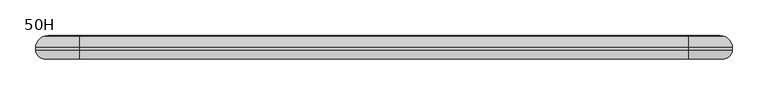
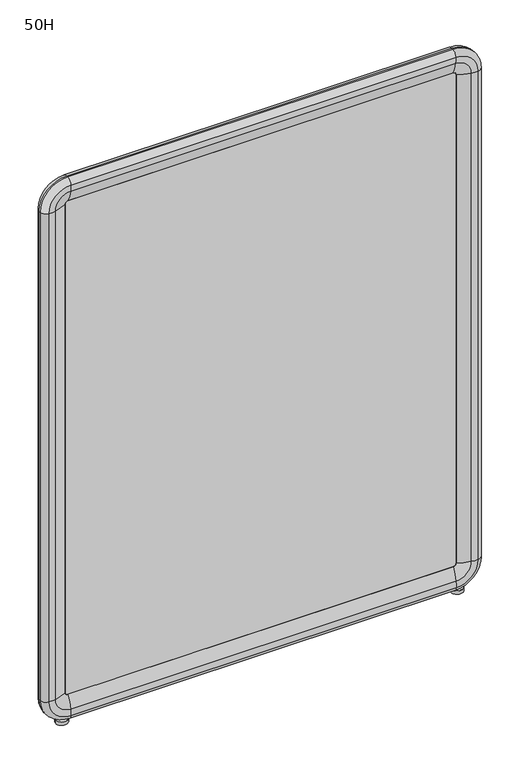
"""IFC4 building model written with IfcOpenShell, lengths in millimetres: furniture geometry, Coalesse_AM_Seating_LoungeChair_Lagunitas_BoothScreen : 50H."""

import ifcopenshell
import ifcopenshell.guid

model = None  # the IFC model being written
_history = None  # IfcOwnerHistory: only IFC2X3 demands one
_inside = {}  # id of a spatial element -> (the spatial element, [elements in it])
_under = {}  # id of a project, library or spatial element -> (it, [spatial elements below it])
_declared = {}  # id of a project -> (the project, [libraries it declares])
_typed = {}  # id of a type object -> (the type object, [elements of that type])
_made_of = {}  # id of a material, layer set ... -> (it, [elements and type objects made of it])


def new_model(schema):
    """Start an empty IFC model of exactly this schema.

    Asked for "IFC4X3", IfcOpenShell would pick the latest addendum, in which some entities
    have other attributes; the version numbers below select the first issue.
    IFC2X3 requires an IfcOwnerHistory on every rooted entity: one is made here for all.
    """
    global model, _history
    if schema == "IFC4X3":
        model = ifcopenshell.file(schema_version=(4, 3, 0, 0))
    else:
        model = ifcopenshell.file(schema=schema)
    _inside.clear()
    _under.clear()
    _declared.clear()
    _typed.clear()
    _made_of.clear()
    _history = None
    if model.schema == "IFC2X3":
        org = make("IfcOrganization", Name="unknown")
        user = make(
            "IfcPersonAndOrganization",
            ThePerson=make("IfcPerson", FamilyName="unknown"),
            TheOrganization=org,
        )
        app = make(
            "IfcApplication",
            ApplicationDeveloper=org,
            Version="unknown",
            ApplicationFullName="unknown",
            ApplicationIdentifier="unknown",
        )
        _history = make(
            "IfcOwnerHistory",
            OwningUser=user,
            OwningApplication=app,
            ChangeAction="ADDED",
            CreationDate=0,
        )
    return model


def make(cls, **values):
    """One entity of the class cls with the attributes given. An attribute that is None is left unset."""
    return model.create_entity(
        cls, **{name: value for name, value in values.items() if value is not None}
    )


def rooted(cls, **values):
    """An entity with a GlobalId (a new one), such as an element, a storey or a relation."""
    return make(cls, GlobalId=ifcopenshell.guid.new(), OwnerHistory=_history, **values)


def si_unit(unit_type, name, prefix=None):
    """IfcSIUnit, for example si_unit("LENGTHUNIT", "METRE", prefix="MILLI")."""
    return make("IfcSIUnit", UnitType=unit_type, Prefix=prefix, Name=name)


def assignment(units):
    """IfcUnitAssignment: the units of a project."""
    return None if units is None else make("IfcUnitAssignment", Units=units)


def point(xyz):
    """IfcCartesianPoint."""
    return None if xyz is None else make("IfcCartesianPoint", Coordinates=xyz)


def direction(xyz):
    """IfcDirection."""
    return None if xyz is None else make("IfcDirection", DirectionRatios=xyz)


def frame(location, z_axis=None, x_axis=None):
    """IfcAxis2Placement3D, a coordinate frame: its origin and axes. An axis left out is left unset."""
    return make(
        "IfcAxis2Placement3D",
        Location=point(location),
        Axis=direction(z_axis),
        RefDirection=direction(x_axis),
    )


def frame_2d(location, x_axis=None):
    """IfcAxis2Placement2D, a coordinate frame in the plane: its origin and x axis."""
    return make(
        "IfcAxis2Placement2D", Location=point(location), RefDirection=direction(x_axis)
    )


def origin():
    """The frame at (0, 0, 0) with its axes left unset."""
    return frame((0.0, 0.0, 0.0))


def origin_with_axes():
    """The frame at (0, 0, 0) with the z axis (0, 0, 1) and the x axis (1, 0, 0) written out."""
    return frame((0.0, 0.0, 0.0), z_axis=(0.0, 0.0, 1.0), x_axis=(1.0, 0.0, 0.0))


def place(relative_to, where):
    """IfcLocalPlacement: puts the frame where relative to a parent placement (None: the world)."""
    return make(
        "IfcLocalPlacement", PlacementRelTo=relative_to, RelativePlacement=where
    )


def context(
    kind, dimensions, precision=None, world=None, true_north=None, identifier=None
):
    """IfcGeometricRepresentationContext, for example the 3D "Model" context."""
    return make(
        "IfcGeometricRepresentationContext",
        ContextIdentifier=identifier,
        ContextType=kind,
        CoordinateSpaceDimension=dimensions,
        Precision=precision,
        WorldCoordinateSystem=world,
        TrueNorth=true_north,
    )


def project(units=None, contexts=None):
    """IfcProject with its units and contexts."""
    return rooted(
        "IfcProject",
        Name="project",
        RepresentationContexts=contexts,
        UnitsInContext=assignment(units),
    )


def spatial(cls, under=None, at=None, **own):
    """A site, building, storey or space (cls), placed at a placement, below another one or the project."""
    s = rooted(cls, ObjectPlacement=at, **own)
    if under is not None:
        _under.setdefault(under.id(), (under, []))[1].append(s)
    return s


def polyline(points):
    """IfcPolyline through the points."""
    return make("IfcPolyline", Points=[point(p) for p in points])


def circle_curve(where, radius):
    """IfcCircle in the frame where."""
    return make("IfcCircle", Position=where, Radius=radius)


def ellipse_curve(where, semi_axis1, semi_axis2):
    """IfcEllipse in the frame where."""
    return make(
        "IfcEllipse", Position=where, SemiAxis1=semi_axis1, SemiAxis2=semi_axis2
    )


def trimmed(basis, trim1, trim2, sense, master):
    """IfcTrimmedCurve: the piece of a basis curve between two trims."""
    return make(
        "IfcTrimmedCurve",
        BasisCurve=basis,
        Trim1=trim1,
        Trim2=trim2,
        SenseAgreement=sense,
        MasterRepresentation=master,
    )


def segment(curve, same_sense, transition):
    """IfcCompositeCurveSegment."""
    return make(
        "IfcCompositeCurveSegment",
        Transition=transition,
        SameSense=same_sense,
        ParentCurve=curve,
    )


def composite_curve(segments, self_intersect=None):
    """IfcCompositeCurve: segments joined end to end."""
    return make("IfcCompositeCurve", Segments=segments, SelfIntersect=self_intersect)


def outline(outer, holes=None, kind="AREA"):
    """IfcArbitraryClosedProfileDef: a profile drawn as a closed curve; with holes, ...WithVoids."""
    if holes is None:
        return make("IfcArbitraryClosedProfileDef", ProfileType=kind, OuterCurve=outer)
    return make(
        "IfcArbitraryProfileDefWithVoids",
        ProfileType=kind,
        OuterCurve=outer,
        InnerCurves=holes,
    )


def extrude(swept, where, along, depth):
    """IfcExtrudedAreaSolid: the profile swept, set in the frame where, extruded along a direction by depth."""
    return make(
        "IfcExtrudedAreaSolid",
        SweptArea=swept,
        Position=where,
        ExtrudedDirection=direction(along),
        Depth=depth,
    )


def shape(context_of_items, identifier, shape_type, items):
    """IfcShapeRepresentation: the items that make up one representation, for example the "Body"."""
    return make(
        "IfcShapeRepresentation",
        ContextOfItems=context_of_items,
        RepresentationIdentifier=identifier,
        RepresentationType=shape_type,
        Items=items,
    )


def source(mapping_origin, context_of_items, identifier, shape_type, items):
    """IfcRepresentationMap: a shape defined once, which mapped items show again and again."""
    return make(
        "IfcRepresentationMap",
        MappingOrigin=mapping_origin,
        MappedRepresentation=shape(context_of_items, identifier, shape_type, items),
    )


def transform(
    local_origin,
    x_axis=None,
    y_axis=None,
    z_axis=None,
    scale=None,
    scale2=None,
    scale3=None,
    uniform=True,
):
    """IfcCartesianTransformationOperator3D, or its non-uniform kind. x_axis, y_axis, z_axis: its Axis1, 2, 3."""
    if uniform:
        return make(
            "IfcCartesianTransformationOperator3D",
            Axis1=direction(x_axis),
            Axis2=direction(y_axis),
            LocalOrigin=point(local_origin),
            Scale=scale,
            Axis3=direction(z_axis),
        )
    return make(
        "IfcCartesianTransformationOperator3DnonUniform",
        Axis1=direction(x_axis),
        Axis2=direction(y_axis),
        LocalOrigin=point(local_origin),
        Scale=scale,
        Axis3=direction(z_axis),
        Scale2=scale2,
        Scale3=scale3,
    )


def mapped(mapping_source, mapping_target):
    """IfcMappedItem: shows the shape of a source again, moved by a transform."""
    return make(
        "IfcMappedItem", MappingSource=mapping_source, MappingTarget=mapping_target
    )


def made_of(thing, what):
    """Note that an element or type object is made of a material, layer set ...; save() writes the relation."""
    if what is not None:
        _made_of.setdefault(what.id(), (what, []))[1].append(thing)
    return thing


def element(
    cls,
    number,
    at=None,
    inside=None,
    cuts=None,
    type_object=None,
    material=None,
    context=None,
    identifier="Body",
    shape_type=None,
    held_by="IfcProductDefinitionShape",
    body=None,
    shapes=None,
    **own,
):
    """One element of the class cls, such as IfcWall. Its Tag is "e" and its number.

    at: its placement. inside: the storey or other place that contains it. cuts: it is an
    opening in that element (IfcRelVoidsElement). A single representation is given by context,
    identifier, shape_type and body (its items); several are given by shapes. held_by: the class
    of the entity that holds the representations. save() writes the other relations.
    """
    e = rooted(cls, Tag="e%d" % number, ObjectPlacement=at, **own)
    if body is not None:
        shapes = [shape(context, identifier, shape_type, body)]
    if shapes is not None:
        e.Representation = make(held_by, Representations=shapes)
    if inside is not None:
        _inside.setdefault(inside.id(), (inside, []))[1].append(e)
    if cuts is not None:
        rooted(
            "IfcRelVoidsElement", RelatingBuildingElement=cuts, RelatedOpeningElement=e
        )
    if type_object is not None:
        _typed.setdefault(type_object.id(), (type_object, []))[1].append(e)
    return made_of(e, material)


def aggregate(whole, parts):
    """IfcRelAggregates: a whole, such as a stair, and the parts it consists of."""
    return rooted("IfcRelAggregates", RelatingObject=whole, RelatedObjects=parts)


def save(model, path):
    """Write the relations noted so far, then the file.

    IfcRelAggregates (storeys below a building ...), IfcRelContainedInSpatialStructure (elements
    in a storey), IfcRelDefinesByType, IfcRelAssociatesMaterial and IfcRelDeclares: one each for
    every whole, place, type object, material and project.
    """
    for whole, parts in _under.values():
        aggregate(whole, parts)
    for where, things in _inside.values():
        rooted(
            "IfcRelContainedInSpatialStructure",
            RelatedElements=things,
            RelatingStructure=where,
        )
    for kind, things in _typed.values():
        rooted("IfcRelDefinesByType", RelatedObjects=things, RelatingType=kind)
    for what, things in _made_of.values():
        rooted("IfcRelAssociatesMaterial", RelatedObjects=things, RelatingMaterial=what)
    for by, libraries in _declared.values():
        rooted("IfcRelDeclares", RelatingContext=by, RelatedDefinitions=libraries)
    model.write(path)


def plane_surface(at):
    """IfcPlane: the flat surface through the origin of the frame at, square to its z axis."""
    return make("IfcPlane", Position=at)


def cylinder_surface(at, radius):
    """IfcCylindricalSurface: all points at the distance radius from the z axis of the frame at."""
    return make("IfcCylindricalSurface", Position=at, Radius=radius)


def revolved_surface(curve, axis_point, axis_direction):
    """IfcSurfaceOfRevolution: the curve turned about the line through axis_point along axis_direction."""
    return make(
        "IfcSurfaceOfRevolution",
        SweptCurve=make("IfcArbitraryOpenProfileDef", ProfileType="CURVE", Curve=curve),
        AxisPosition=make("IfcAxis1Placement", Location=point(axis_point), Axis=direction(axis_direction)),
    )


def advanced_brep(points, edges, surfaces, faces):
    """IfcAdvancedBrep: a solid bounded by faces that lie on surfaces and meet in shared edges.

    An edge is (start, end): straight between two places in points (the first is 0);
    or (start, end, curve); or (start, end, curve, False) where it runs against its curve.
    A face is (place in surfaces, loops), or (place, loops, False) where it looks against
    its surface's normal. A loop lists edges by number (the first is 1), with a minus sign
    where the edge is run from its end to its start. The first loop is the outer one.
    """
    corners = [point(p) for p in points]
    vertices = [make("IfcVertexPoint", VertexGeometry=c) for c in corners]
    made = []
    for start, end, *more in edges:
        made.append(
            make(
                "IfcEdgeCurve",
                EdgeStart=vertices[start],
                EdgeEnd=vertices[end],
                EdgeGeometry=more[0] if more else make("IfcPolyline", Points=[corners[start], corners[end]]),
                SameSense=more[1] if len(more) > 1 else True,
            )
        )
    hull = []
    for where, loops, *sense in faces:
        bounds = []
        for j, loop in enumerate(loops):
            ring = [make("IfcOrientedEdge", EdgeElement=made[abs(k) - 1], Orientation=k > 0) for k in loop]
            bounds.append(
                make(
                    "IfcFaceOuterBound" if j == 0 else "IfcFaceBound",
                    Bound=make("IfcEdgeLoop", EdgeList=ring),
                    Orientation=True,
                )
            )
        hull.append(make("IfcAdvancedFace", Bounds=bounds, FaceSurface=surfaces[where], SameSense=sense[0] if sense else True))
    return make("IfcAdvancedBrep", Outer=make("IfcClosedShell", CfsFaces=hull))


def furniture_50h_e364f507(model_context):
    return source(origin(), model_context, "Body", "SolidModel", [
        extrude(outline(composite_curve([segment(trimmed(circle_curve(frame_2d((453.6214725, 440.7217708)), 13.208), [point((466.8294725, 440.7217708))], [point((440.4134725, 440.7217708))], False, "CARTESIAN"), True, "CONTINUOUS"), segment(trimmed(circle_curve(frame_2d((453.6214725, 440.7217708)), 13.208), [point((440.4134725, 440.7217708))], [point((466.8294725, 440.7217708))], False, "CARTESIAN"), True, "CONTINUOUS")], self_intersect=False)), origin_with_axes(), (0.0, 0.0, 1.0), 7.9249983),
        extrude(outline(composite_curve([segment(trimmed(circle_curve(frame_2d((453.4911595, 440.6536463)), 3.8556407), [point((457.3468003, 440.6536463))], [point((449.6355188, 440.6536463))], False, "CARTESIAN"), True, "CONTINUOUS"), segment(trimmed(circle_curve(frame_2d((453.4911595, 440.6536463)), 3.8556407), [point((449.6355188, 440.6536463))], [point((457.3468003, 440.6536463))], False, "CARTESIAN"), True, "CONTINUOUS")], self_intersect=False)), frame((0.0, 0.0, 7.9249983), z_axis=(0.0, 0.0, 1.0), x_axis=(1.0, 0.0, 0.0)), (0.0, 0.0, 1.0), 41.9053919),
        extrude(outline(composite_curve([segment(trimmed(circle_curve(frame_2d((-421.3244846, 440.7217708)), 13.208), [point((-434.5324846, 440.7217708))], [point((-408.1164846, 440.7217708))], False, "CARTESIAN"), True, "CONTINUOUS"), segment(trimmed(circle_curve(frame_2d((-421.3244846, 440.7217708)), 13.208), [point((-408.1164846, 440.7217708))], [point((-434.5324846, 440.7217708))], False, "CARTESIAN"), True, "CONTINUOUS")], self_intersect=False)), origin_with_axes(), (0.0, 0.0, 1.0), 7.9249983),
        extrude(outline(composite_curve([segment(trimmed(circle_curve(frame_2d((-421.1941716, 440.6536463)), 3.8556407), [point((-425.0498123, 440.6536463))], [point((-417.3385308, 440.6536463))], False, "CARTESIAN"), True, "CONTINUOUS"), segment(trimmed(circle_curve(frame_2d((-421.1941716, 440.6536463)), 3.8556407), [point((-417.3385308, 440.6536463))], [point((-425.0498123, 440.6536463))], False, "CARTESIAN"), True, "CONTINUOUS")], self_intersect=False)), frame((0.0, 0.0, 7.9249983), z_axis=(0.0, 0.0, 1.0), x_axis=(1.0, 0.0, 0.0)), (0.0, 0.0, 1.0), 41.9053919),
        advanced_brep(
        [(-416.4339043, 446.0584965, 1210.1248052), (-410.0839043, 446.0584965, 1216.4748052), (-410.0839043, 435.8580653, 1216.4748052), (-416.4339043, 435.8580653, 1210.1248052), (-470.8215471, 437.2998542, 1210.1248052), (-410.0839043, 437.2998542, 1270.862448), (-410.0839043, 440.334406, 1270.862448), (-470.8215471, 440.334406, 1210.1248052), (-416.4339043, 435.8580653, 68.6500677), (-416.4339043, 446.0584965, 68.6500677), (-470.8215471, 440.334406, 68.6500677), (-470.8215471, 437.2998542, 68.6500677), (-410.0839043, 446.0584965, 62.3000677), (-410.0839043, 435.8580653, 62.3000677), (-410.0839043, 437.2998542, 7.9124249), (-410.0839043, 440.334406, 7.9124249), (442.4979449, 435.8580653, 62.3000677), (442.4979449, 446.0584965, 62.3000677), (442.4979449, 440.334406, 7.9124249), (442.4979449, 437.2998542, 7.9124249), (448.8479449, 446.0584965, 68.6500677), (448.8479449, 435.8580653, 68.6500677), (503.2355877, 437.2998542, 68.6500677), (503.2355877, 440.334406, 68.6500677), (448.8479449, 435.8580653, 1210.1248052), (448.8479449, 446.0584965, 1210.1248052), (503.2355877, 440.334406, 1210.1248052), (503.2355877, 437.2998542, 1210.1248052), (442.4979449, 446.0584965, 1216.4748052), (442.4979449, 435.8580653, 1216.4748052), (442.4979449, 437.2998542, 1270.862448), (442.4979449, 440.334406, 1270.862448), (-448.8657727, 457.2024852, 1210.1248052), (-410.0839043, 457.2024852, 1248.9066736), (-457.6752087, 456.7577105, 1210.1248052), (-410.0839043, 456.7577105, 1257.7161096), (-459.4147106, 424.6658632, 1210.1248052), (-410.0839043, 424.6658632, 1259.4556116), (-444.6084932, 425.6033536, 1210.1248052), (-410.0839043, 425.6033536, 1244.6493942), (-448.8657727, 457.2024852, 68.6500677), (-457.6752087, 456.7577105, 68.6500677), (-459.4147106, 424.6658632, 68.6500677), (-444.6084932, 425.6033536, 68.6500677), (-410.0839043, 457.2024852, 29.8681993), (-410.0839043, 456.7577105, 21.0587633), (-410.0839043, 424.6658632, 19.3192613), (-410.0839043, 425.6033536, 34.1254788), (442.4979449, 457.2024852, 29.8681993), (442.4979449, 456.7577105, 21.0587633), (442.4979449, 424.6658632, 19.3192613), (442.4979449, 425.6033536, 34.1254788), (481.2798133, 457.2024852, 68.6500677), (490.0892493, 456.7577105, 68.6500677), (491.8287513, 424.6658632, 68.6500677), (477.0225339, 425.6033536, 68.6500677), (481.2798133, 457.2024852, 1210.1248052), (490.0892493, 456.7577105, 1210.1248052), (491.8287513, 424.6658632, 1210.1248052), (477.0225339, 425.6033536, 1210.1248052), (442.4979449, 457.2024852, 1248.9066736), (442.4979449, 456.7577105, 1257.7161096), (442.4979449, 424.6658632, 1259.4556116), (442.4979449, 425.6033536, 1244.6493942)],
        [
            (0, 1, circle_curve(frame((-410.0839043, 446.0584965, 1210.1248052), z_axis=(0.0, 1.0, 0.0), x_axis=(0.0, 0.0, 1.0)), 6.35)),
            (1, 2),
            (2, 3, circle_curve(frame((-410.0839043, 435.8580653, 1210.1248052), z_axis=(0.0, -1.0, 0.0), x_axis=(0.0, 0.0, 1.0)), 6.35)),
            (3, 0),
            (4, 5, circle_curve(frame((-410.0839043, 437.2998542, 1210.1248052), z_axis=(0.0, 1.0, 0.0), x_axis=(0.0, 0.0, 1.0)), 60.7376428)),
            (5, 6),
            (6, 7, circle_curve(frame((-410.0839043, 440.334406, 1210.1248052), z_axis=(0.0, -1.0, 0.0), x_axis=(0.0, 0.0, 1.0)), 60.7376428)),
            (7, 4),
            (3, 8),
            (8, 9),
            (9, 0),
            (7, 10),
            (10, 11),
            (11, 4),
            (12, 9, circle_curve(frame((-410.0839043, 446.0584965, 68.6500677), z_axis=(0.0, 1.0, 0.0), x_axis=(-1.0, 0.0, 0.0)), 6.35)),
            (8, 13, circle_curve(frame((-410.0839043, 435.8580653, 68.6500677), z_axis=(0.0, -1.0, 0.0), x_axis=(-1.0, 0.0, 0.0)), 6.35)),
            (13, 12),
            (14, 11, circle_curve(frame((-410.0839043, 437.2998542, 68.6500677), z_axis=(0.0, 1.0, 0.0), x_axis=(-1.0, 0.0, 0.0)), 60.7376428)),
            (10, 15, circle_curve(frame((-410.0839043, 440.334406, 68.6500677), z_axis=(0.0, -1.0, 0.0), x_axis=(-1.0, 0.0, 0.0)), 60.7376428)),
            (15, 14),
            (13, 16),
            (16, 17),
            (17, 12),
            (15, 18),
            (18, 19),
            (19, 14),
            (20, 17, circle_curve(frame((442.4979449, 446.0584965, 68.6500677), z_axis=(0.0, 1.0, 0.0), x_axis=(0.0, 0.0, -1.0)), 6.35)),
            (16, 21, circle_curve(frame((442.4979449, 435.8580653, 68.6500677), z_axis=(0.0, -1.0, 0.0), x_axis=(0.0, 0.0, -1.0)), 6.35)),
            (21, 20),
            (22, 19, circle_curve(frame((442.4979449, 437.2998542, 68.6500677), z_axis=(0.0, 1.0, 0.0), x_axis=(0.0, 0.0, -1.0)), 60.7376428)),
            (18, 23, circle_curve(frame((442.4979449, 440.334406, 68.6500677), z_axis=(0.0, -1.0, 0.0), x_axis=(0.0, 0.0, -1.0)), 60.7376428)),
            (23, 22),
            (21, 24),
            (24, 25),
            (25, 20),
            (23, 26),
            (26, 27),
            (27, 22),
            (28, 25, circle_curve(frame((442.4979449, 446.0584965, 1210.1248052), z_axis=(0.0, 1.0, 0.0), x_axis=(1.0, 0.0, 0.0)), 6.35)),
            (24, 29, circle_curve(frame((442.4979449, 435.8580653, 1210.1248052), z_axis=(0.0, -1.0, 0.0), x_axis=(1.0, 0.0, 0.0)), 6.35)),
            (29, 28),
            (30, 27, circle_curve(frame((442.4979449, 437.2998542, 1210.1248052), z_axis=(0.0, 1.0, 0.0), x_axis=(1.0, 0.0, 0.0)), 60.7376428)),
            (26, 31, circle_curve(frame((442.4979449, 440.334406, 1210.1248052), z_axis=(0.0, -1.0, 0.0), x_axis=(1.0, 0.0, 0.0)), 60.7376428)),
            (31, 30),
            (29, 2),
            (1, 28),
            (31, 6),
            (5, 30),
            (32, 33, circle_curve(frame((-410.0839043, 457.2024852, 1210.1248052), z_axis=(0.0, 1.0, 0.0), x_axis=(0.0, 0.0, 1.0)), 38.7818683)),
            (33, 1, circle_curve(frame((-410.0839043, 375.9663196, 1258.6898789), z_axis=(-1.0, 0.0, 0.0), x_axis=(0.0, 0.0, -1.0)), 81.8231367)),
            (0, 32, circle_curve(frame((-458.648978, 375.9663196, 1210.1248052), z_axis=(0.0, 0.0, 1.0), x_axis=(1.0, 0.0, 0.0)), 81.8231367)),
            (34, 35, circle_curve(frame((-410.0839043, 456.7577105, 1210.1248052), z_axis=(0.0, 1.0, 0.0), x_axis=(0.0, 0.0, 1.0)), 47.5913044)),
            (35, 33, circle_curve(frame((-410.0839043, 431.3657926, 1252.0181655), z_axis=(-1.0, 0.0, 0.0), x_axis=(0.0, 0.0, -1.0)), 26.0233753)),
            (32, 34, circle_curve(frame((-451.9772645, 431.3657926, 1210.1248052), z_axis=(0.0, 0.0, 1.0), x_axis=(1.0, 0.0, 0.0)), 26.0233753)),
            (6, 35, circle_curve(frame((-410.0839043, 440.334406, 1254.0307215), z_axis=(-1.0, 0.0, 0.0), x_axis=(0.0, 0.0, -1.0)), 16.8317265)),
            (34, 7, circle_curve(frame((-453.9898206, 440.334406, 1210.1248052), z_axis=(0.0, 0.0, 1.0), x_axis=(1.0, 0.0, 0.0)), 16.8317265)),
            (36, 37, circle_curve(frame((-410.0839043, 424.6658632, 1210.1248052), z_axis=(0.0, 1.0, 0.0), x_axis=(0.0, 0.0, 1.0)), 49.3308063)),
            (37, 5, circle_curve(frame((-410.0839043, 437.2998542, 1258.162448), z_axis=(-1.0, 0.0, 0.0), x_axis=(0.0, 0.0, -1.0)), 12.7)),
            (4, 36, circle_curve(frame((-458.1215471, 437.2998542, 1210.1248052), z_axis=(0.0, 0.0, 1.0), x_axis=(1.0, 0.0, 0.0)), 12.7)),
            (38, 39, circle_curve(frame((-410.0839043, 425.6033536, 1210.1248052), z_axis=(0.0, 1.0, 0.0), x_axis=(0.0, 0.0, 1.0)), 34.5245889)),
            (39, 37, circle_curve(frame((-410.0839043, 469.5300077, 1254.8635016), z_axis=(-1.0, 0.0, 0.0), x_axis=(0.0, 0.0, -1.0)), 45.0985469)),
            (36, 38, circle_curve(frame((-454.8226006, 469.5300077, 1210.1248052), z_axis=(0.0, 0.0, 1.0), x_axis=(1.0, 0.0, 0.0)), 45.0985469)),
            (2, 39, circle_curve(frame((-410.0839043, 546.9745935, 1272.8714134), z_axis=(-1.0, 0.0, 0.0), x_axis=(0.0, 0.0, -1.0)), 124.6092303)),
            (38, 3, circle_curve(frame((-472.8305125, 546.9745935, 1210.1248052), z_axis=(0.0, 0.0, 1.0), x_axis=(1.0, 0.0, 0.0)), 124.6092303)),
            (9, 40, circle_curve(frame((-458.648978, 375.9663196, 68.6500677), z_axis=(0.0, 0.0, 1.0), x_axis=(1.0, 0.0, 0.0)), 81.8231367)),
            (40, 32),
            (40, 41, circle_curve(frame((-451.9772645, 431.3657926, 68.6500677), z_axis=(0.0, 0.0, 1.0), x_axis=(1.0, 0.0, 0.0)), 26.0233753)),
            (41, 34),
            (41, 10, circle_curve(frame((-453.9898206, 440.334406, 68.6500677), z_axis=(0.0, 0.0, 1.0), x_axis=(1.0, 0.0, 0.0)), 16.8317265)),
            (11, 42, circle_curve(frame((-458.1215471, 437.2998542, 68.6500677), z_axis=(0.0, 0.0, 1.0), x_axis=(1.0, 0.0, 0.0)), 12.7)),
            (42, 36),
            (42, 43, circle_curve(frame((-454.8226006, 469.5300077, 68.6500677), z_axis=(0.0, 0.0, 1.0), x_axis=(1.0, 0.0, 0.0)), 45.0985469)),
            (43, 38),
            (43, 8, circle_curve(frame((-472.8305125, 546.9745935, 68.6500677), z_axis=(0.0, 0.0, 1.0), x_axis=(1.0, 0.0, 0.0)), 124.6092303)),
            (44, 40, circle_curve(frame((-410.0839043, 457.2024852, 68.6500677), z_axis=(0.0, 1.0, 0.0), x_axis=(-1.0, 0.0, 0.0)), 38.7818683)),
            (12, 44, circle_curve(frame((-410.0839043, 375.9663196, 20.084994), z_axis=(-1.0, 0.0, 0.0), x_axis=(0.0, 0.0, 1.0)), 81.8231367)),
            (45, 41, circle_curve(frame((-410.0839043, 456.7577105, 68.6500677), z_axis=(0.0, 1.0, 0.0), x_axis=(-1.0, 0.0, 0.0)), 47.5913044)),
            (44, 45, circle_curve(frame((-410.0839043, 431.3657926, 26.7567075), z_axis=(-1.0, 0.0, 0.0), x_axis=(0.0, 0.0, 1.0)), 26.0233753)),
            (45, 15, circle_curve(frame((-410.0839043, 440.334406, 24.7441514), z_axis=(-1.0, 0.0, 0.0), x_axis=(0.0, 0.0, 1.0)), 16.8317265)),
            (46, 42, circle_curve(frame((-410.0839043, 424.6658632, 68.6500677), z_axis=(0.0, 1.0, 0.0), x_axis=(-1.0, 0.0, 0.0)), 49.3308063)),
            (14, 46, circle_curve(frame((-410.0839043, 437.2998542, 20.6124249), z_axis=(-1.0, 0.0, 0.0), x_axis=(0.0, 0.0, 1.0)), 12.7)),
            (47, 43, circle_curve(frame((-410.0839043, 425.6033536, 68.6500677), z_axis=(0.0, 1.0, 0.0), x_axis=(-1.0, 0.0, 0.0)), 34.5245889)),
            (46, 47, circle_curve(frame((-410.0839043, 469.5300077, 23.9113714), z_axis=(-1.0, 0.0, 0.0), x_axis=(0.0, 0.0, 1.0)), 45.0985469)),
            (47, 13, circle_curve(frame((-410.0839043, 546.9745935, 5.9034595), z_axis=(-1.0, 0.0, 0.0), x_axis=(0.0, 0.0, 1.0)), 124.6092303)),
            (17, 48, circle_curve(frame((442.4979449, 375.9663196, 20.084994), z_axis=(-1.0, 0.0, 0.0), x_axis=(0.0, 0.0, 1.0)), 81.8231367)),
            (48, 44),
            (48, 49, circle_curve(frame((442.4979449, 431.3657926, 26.7567075), z_axis=(-1.0, 0.0, 0.0), x_axis=(0.0, 0.0, 1.0)), 26.0233753)),
            (49, 45),
            (49, 18, circle_curve(frame((442.4979449, 440.334406, 24.7441514), z_axis=(-1.0, 0.0, 0.0), x_axis=(0.0, 0.0, 1.0)), 16.8317265)),
            (19, 50, circle_curve(frame((442.4979449, 437.2998542, 20.6124249), z_axis=(-1.0, 0.0, 0.0), x_axis=(0.0, 0.0, 1.0)), 12.7)),
            (50, 46),
            (50, 51, circle_curve(frame((442.4979449, 469.5300077, 23.9113714), z_axis=(-1.0, 0.0, 0.0), x_axis=(0.0, 0.0, 1.0)), 45.0985469)),
            (51, 47),
            (51, 16, circle_curve(frame((442.4979449, 546.9745935, 5.9034595), z_axis=(-1.0, 0.0, 0.0), x_axis=(0.0, 0.0, 1.0)), 124.6092303)),
            (52, 48, circle_curve(frame((442.4979449, 457.2024852, 68.6500677), z_axis=(0.0, 1.0, 0.0), x_axis=(0.0, 0.0, -1.0)), 38.7818683)),
            (20, 52, circle_curve(frame((491.0630186, 375.9663196, 68.6500677), z_axis=(0.0, 0.0, -1.0), x_axis=(-1.0, 0.0, 0.0)), 81.8231367)),
            (53, 49, circle_curve(frame((442.4979449, 456.7577105, 68.6500677), z_axis=(0.0, 1.0, 0.0), x_axis=(0.0, 0.0, -1.0)), 47.5913044)),
            (52, 53, circle_curve(frame((484.3913052, 431.3657926, 68.6500677), z_axis=(0.0, 0.0, -1.0), x_axis=(-1.0, 0.0, 0.0)), 26.0233753)),
            (53, 23, circle_curve(frame((486.4038612, 440.334406, 68.6500677), z_axis=(0.0, 0.0, -1.0), x_axis=(-1.0, 0.0, 0.0)), 16.8317265)),
            (54, 50, circle_curve(frame((442.4979449, 424.6658632, 68.6500677), z_axis=(0.0, 1.0, 0.0), x_axis=(0.0, 0.0, -1.0)), 49.3308063)),
            (22, 54, circle_curve(frame((490.5355877, 437.2998542, 68.6500677), z_axis=(0.0, 0.0, -1.0), x_axis=(-1.0, 0.0, 0.0)), 12.7)),
            (55, 51, circle_curve(frame((442.4979449, 425.6033536, 68.6500677), z_axis=(0.0, 1.0, 0.0), x_axis=(0.0, 0.0, -1.0)), 34.5245889)),
            (54, 55, circle_curve(frame((487.2366413, 469.5300077, 68.6500677), z_axis=(0.0, 0.0, -1.0), x_axis=(-1.0, 0.0, 0.0)), 45.0985469)),
            (55, 21, circle_curve(frame((505.2445531, 546.9745935, 68.6500677), z_axis=(0.0, 0.0, -1.0), x_axis=(-1.0, 0.0, 0.0)), 124.6092303)),
            (25, 56, circle_curve(frame((491.0630186, 375.9663196, 1210.1248052), z_axis=(0.0, 0.0, -1.0), x_axis=(-1.0, 0.0, 0.0)), 81.8231367)),
            (56, 52),
            (56, 57, circle_curve(frame((484.3913052, 431.3657926, 1210.1248052), z_axis=(0.0, 0.0, -1.0), x_axis=(-1.0, 0.0, 0.0)), 26.0233753)),
            (57, 53),
            (57, 26, circle_curve(frame((486.4038612, 440.334406, 1210.1248052), z_axis=(0.0, 0.0, -1.0), x_axis=(-1.0, 0.0, 0.0)), 16.8317265)),
            (27, 58, circle_curve(frame((490.5355877, 437.2998542, 1210.1248052), z_axis=(0.0, 0.0, -1.0), x_axis=(-1.0, 0.0, 0.0)), 12.7)),
            (58, 54),
            (58, 59, circle_curve(frame((487.2366413, 469.5300077, 1210.1248052), z_axis=(0.0, 0.0, -1.0), x_axis=(-1.0, 0.0, 0.0)), 45.0985469)),
            (59, 55),
            (59, 24, circle_curve(frame((505.2445531, 546.9745935, 1210.1248052), z_axis=(0.0, 0.0, -1.0), x_axis=(-1.0, 0.0, 0.0)), 124.6092303)),
            (60, 56, circle_curve(frame((442.4979449, 457.2024852, 1210.1248052), z_axis=(0.0, 1.0, 0.0), x_axis=(1.0, 0.0, 0.0)), 38.7818683)),
            (28, 60, circle_curve(frame((442.4979449, 375.9663196, 1258.6898789), z_axis=(1.0, 0.0, 0.0), x_axis=(0.0, 0.0, -1.0)), 81.8231367)),
            (61, 57, circle_curve(frame((442.4979449, 456.7577105, 1210.1248052), z_axis=(0.0, 1.0, 0.0), x_axis=(1.0, 0.0, 0.0)), 47.5913044)),
            (60, 61, circle_curve(frame((442.4979449, 431.3657926, 1252.0181655), z_axis=(1.0, 0.0, 0.0), x_axis=(0.0, 0.0, -1.0)), 26.0233753)),
            (61, 31, circle_curve(frame((442.4979449, 440.334406, 1254.0307215), z_axis=(1.0, 0.0, 0.0), x_axis=(0.0, 0.0, -1.0)), 16.8317265)),
            (62, 58, circle_curve(frame((442.4979449, 424.6658632, 1210.1248052), z_axis=(0.0, 1.0, 0.0), x_axis=(1.0, 0.0, 0.0)), 49.3308063)),
            (30, 62, circle_curve(frame((442.4979449, 437.2998542, 1258.162448), z_axis=(1.0, 0.0, 0.0), x_axis=(0.0, 0.0, -1.0)), 12.7)),
            (63, 59, circle_curve(frame((442.4979449, 425.6033536, 1210.1248052), z_axis=(0.0, 1.0, 0.0), x_axis=(1.0, 0.0, 0.0)), 34.5245889)),
            (62, 63, circle_curve(frame((442.4979449, 469.5300077, 1254.8635016), z_axis=(1.0, 0.0, 0.0), x_axis=(0.0, 0.0, -1.0)), 45.0985469)),
            (63, 29, circle_curve(frame((442.4979449, 546.9745935, 1272.8714134), z_axis=(1.0, 0.0, 0.0), x_axis=(0.0, 0.0, -1.0)), 124.6092303)),
            (33, 60),
            (35, 61),
            (37, 62),
            (39, 63),
        ],
        [
            revolved_surface(polyline([(-410.0839043, 435.8580653, 1216.4748052), (-410.0839043, 446.0584965, 1216.4748052)]), (-410.0839043, 457.2024852, 1210.1248052), (0.0, -1.0, 0.0)),
            cylinder_surface(frame((-410.0839043, 457.2024852, 1210.1248052), z_axis=(0.0, -1.0, 0.0), x_axis=(0.0, 0.0, 1.0)), 60.7376428),
            plane_surface(frame((-416.4339043, 435.8580653, 1210.1248052), z_axis=(1.0, 0.0, 0.0), x_axis=(0.0, 0.0, -1.0))),
            plane_surface(frame((-470.8215471, 440.334406, 1210.1248052), z_axis=(-1.0, 0.0, 0.0), x_axis=(0.0, 0.0, -1.0))),
            revolved_surface(polyline([(-416.4339043, 435.8580653, 68.6500677), (-416.4339043, 446.0584965, 68.6500677)]), (-410.0839043, 457.2024852, 68.6500677), (0.0, -1.0, 0.0)),
            cylinder_surface(frame((-410.0839043, 457.2024852, 68.6500677), z_axis=(0.0, -1.0, 0.0), x_axis=(-1.0, 0.0, 0.0)), 60.7376428),
            plane_surface(frame((-410.0839043, 435.8580653, 62.3000677), z_axis=(0.0, 0.0, 1.0), x_axis=(1.0, 0.0, 0.0))),
            plane_surface(frame((-410.0839043, 440.334406, 7.9124249), z_axis=(0.0, 0.0, -1.0), x_axis=(1.0, 0.0, 0.0))),
            revolved_surface(polyline([(442.4979449, 435.8580653, 62.30006769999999), (442.4979449, 446.0584965, 62.30006769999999)]), (442.4979449, 457.2024852, 68.6500677), (0.0, -1.0, 0.0)),
            cylinder_surface(frame((442.4979449, 457.2024852, 68.6500677), z_axis=(0.0, -1.0, 0.0), x_axis=(0.0, 0.0, -1.0)), 60.7376428),
            plane_surface(frame((448.8479449, 435.8580653, 68.6500677), z_axis=(-1.0, 0.0, 0.0), x_axis=(0.0, 0.0, 1.0))),
            plane_surface(frame((503.2355877, 440.334406, 68.6500677), z_axis=(1.0, 0.0, 0.0), x_axis=(0.0, 0.0, 1.0))),
            revolved_surface(polyline([(448.8479449, 435.8580653, 1210.1248052), (448.8479449, 446.0584965, 1210.1248052)]), (442.4979449, 457.2024852, 1210.1248052), (0.0, -1.0, 0.0)),
            cylinder_surface(frame((442.4979449, 457.2024852, 1210.1248052), z_axis=(0.0, -1.0, 0.0), x_axis=(1.0, 0.0, 0.0)), 60.7376428),
            plane_surface(frame((442.4979449, 435.8580653, 1216.4748052), z_axis=(0.0, 0.0, -1.0), x_axis=(-1.0, 0.0, 0.0))),
            plane_surface(frame((442.4979449, 440.334406, 1270.862448), z_axis=(0.0, 0.0, 1.0), x_axis=(-1.0, 0.0, 0.0))),
            revolved_surface(trimmed(ellipse_curve(frame((-410.0839043, 375.9663196, 1258.6898789), z_axis=(1.0, 0.0, 0.0), x_axis=(0.0, 0.0, -1.0)), 81.8231367, 81.8231367), [point((-410.0839043, 446.0584965, 1216.4748052))], [point((-410.0839043, 457.2024852, 1248.9066736))], True, "CARTESIAN"), (-410.0839043, 457.2024852, 1210.1248052), (0.0, -1.0, 0.0)),
            revolved_surface(trimmed(ellipse_curve(frame((-410.0839043, 431.3657926, 1252.0181655), z_axis=(1.0, 0.0, 0.0), x_axis=(0.0, 0.0, -1.0)), 26.0233753, 26.0233753), [point((-410.0839043, 457.2024852, 1248.9066736))], [point((-410.0839043, 456.7577105, 1257.7161096))], True, "CARTESIAN"), (-410.0839043, 457.2024852, 1210.1248052), (0.0, -1.0, 0.0)),
            revolved_surface(trimmed(ellipse_curve(frame((-410.0839043, 440.334406, 1254.0307215), z_axis=(1.0, 0.0, 0.0), x_axis=(0.0, 0.0, -1.0)), 16.8317265, 16.8317265), [point((-410.0839043, 456.7577105, 1257.7161096))], [point((-410.0839043, 440.334406, 1270.862448))], True, "CARTESIAN"), (-410.0839043, 457.2024852, 1210.1248052), (0.0, -1.0, 0.0)),
            revolved_surface(trimmed(ellipse_curve(frame((-410.0839043, 437.2998542, 1258.162448), z_axis=(1.0, 0.0, 0.0), x_axis=(0.0, 0.0, -1.0)), 12.7, 12.7), [point((-410.0839043, 437.2998542, 1270.862448))], [point((-410.0839043, 424.6658632, 1259.4556116))], True, "CARTESIAN"), (-410.0839043, 457.2024852, 1210.1248052), (0.0, -1.0, 0.0)),
            revolved_surface(trimmed(ellipse_curve(frame((-410.0839043, 469.5300077, 1254.8635016), z_axis=(1.0, 0.0, 0.0), x_axis=(0.0, 0.0, -1.0)), 45.0985469, 45.0985469), [point((-410.0839043, 424.6658632, 1259.4556116))], [point((-410.0839043, 425.6033536, 1244.6493942))], True, "CARTESIAN"), (-410.0839043, 457.2024852, 1210.1248052), (0.0, -1.0, 0.0)),
            revolved_surface(trimmed(ellipse_curve(frame((-410.0839043, 546.9745935, 1272.8714134), z_axis=(1.0, 0.0, 0.0), x_axis=(0.0, 0.0, -1.0)), 124.6092303, 124.6092303), [point((-410.0839043, 425.6033536, 1244.6493942))], [point((-410.0839043, 435.8580653, 1216.4748052))], True, "CARTESIAN"), (-410.0839043, 457.2024852, 1210.1248052), (0.0, -1.0, 0.0)),
            cylinder_surface(frame((-458.648978, 375.9663196, 1210.1248052), z_axis=(0.0, 0.0, 1.0), x_axis=(1.0, 0.0, 0.0)), 81.8231367),
            cylinder_surface(frame((-451.9772645, 431.3657926, 1210.1248052), z_axis=(0.0, 0.0, 1.0), x_axis=(1.0, 0.0, 0.0)), 26.0233753),
            cylinder_surface(frame((-453.9898206, 440.334406, 1210.1248052), z_axis=(0.0, 0.0, 1.0), x_axis=(1.0, 0.0, 0.0)), 16.8317265),
            cylinder_surface(frame((-458.1215471, 437.2998542, 1210.1248052), z_axis=(0.0, 0.0, 1.0), x_axis=(1.0, 0.0, 0.0)), 12.7),
            cylinder_surface(frame((-454.8226006, 469.5300077, 1210.1248052), z_axis=(0.0, 0.0, 1.0), x_axis=(1.0, 0.0, 0.0)), 45.0985469),
            cylinder_surface(frame((-472.8305125, 546.9745935, 1210.1248052), z_axis=(0.0, 0.0, 1.0), x_axis=(1.0, 0.0, 0.0)), 124.6092303),
            revolved_surface(trimmed(ellipse_curve(frame((-458.648978, 375.9663196, 68.6500677), z_axis=(0.0, 0.0, 1.0), x_axis=(1.0, 0.0, 0.0)), 81.8231367, 81.8231367), [point((-416.4339043, 446.0584965, 68.6500677))], [point((-448.8657727, 457.2024852, 68.6500677))], True, "CARTESIAN"), (-410.0839043, 457.2024852, 68.6500677), (0.0, -1.0, 0.0)),
            revolved_surface(trimmed(ellipse_curve(frame((-451.9772645, 431.3657926, 68.6500677), z_axis=(0.0, 0.0, 1.0), x_axis=(1.0, 0.0, 0.0)), 26.0233753, 26.0233753), [point((-448.8657727, 457.2024852, 68.6500677))], [point((-457.6752087, 456.7577105, 68.6500677))], True, "CARTESIAN"), (-410.0839043, 457.2024852, 68.6500677), (0.0, -1.0, 0.0)),
            revolved_surface(trimmed(ellipse_curve(frame((-453.9898206, 440.334406, 68.6500677), z_axis=(0.0, 0.0, 1.0), x_axis=(1.0, 0.0, 0.0)), 16.8317265, 16.8317265), [point((-457.6752087, 456.7577105, 68.6500677))], [point((-470.8215471, 440.334406, 68.6500677))], True, "CARTESIAN"), (-410.0839043, 457.2024852, 68.6500677), (0.0, -1.0, 0.0)),
            revolved_surface(trimmed(ellipse_curve(frame((-458.1215471, 437.2998542, 68.6500677), z_axis=(0.0, 0.0, 1.0), x_axis=(1.0, 0.0, 0.0)), 12.7, 12.7), [point((-470.8215471, 437.2998542, 68.6500677))], [point((-459.4147106, 424.6658632, 68.6500677))], True, "CARTESIAN"), (-410.0839043, 457.2024852, 68.6500677), (0.0, -1.0, 0.0)),
            revolved_surface(trimmed(ellipse_curve(frame((-454.8226006, 469.5300077, 68.6500677), z_axis=(0.0, 0.0, 1.0), x_axis=(1.0, 0.0, 0.0)), 45.0985469, 45.0985469), [point((-459.4147106, 424.6658632, 68.6500677))], [point((-444.6084932, 425.6033536, 68.6500677))], True, "CARTESIAN"), (-410.0839043, 457.2024852, 68.6500677), (0.0, -1.0, 0.0)),
            revolved_surface(trimmed(ellipse_curve(frame((-472.8305125, 546.9745935, 68.6500677), z_axis=(0.0, 0.0, 1.0), x_axis=(1.0, 0.0, 0.0)), 124.6092303, 124.6092303), [point((-444.6084932, 425.6033536, 68.6500677))], [point((-416.4339043, 435.8580653, 68.6500677))], True, "CARTESIAN"), (-410.0839043, 457.2024852, 68.6500677), (0.0, -1.0, 0.0)),
            cylinder_surface(frame((-410.0839043, 375.9663196, 20.084994), z_axis=(-1.0, 0.0, 0.0), x_axis=(0.0, 0.0, 1.0)), 81.8231367),
            cylinder_surface(frame((-410.0839043, 431.3657926, 26.7567075), z_axis=(-1.0, 0.0, 0.0), x_axis=(0.0, 0.0, 1.0)), 26.0233753),
            cylinder_surface(frame((-410.0839043, 440.334406, 24.7441514), z_axis=(-1.0, 0.0, 0.0), x_axis=(0.0, 0.0, 1.0)), 16.8317265),
            cylinder_surface(frame((-410.0839043, 437.2998542, 20.6124249), z_axis=(-1.0, 0.0, 0.0), x_axis=(0.0, 0.0, 1.0)), 12.7),
            cylinder_surface(frame((-410.0839043, 469.5300077, 23.9113714), z_axis=(-1.0, 0.0, 0.0), x_axis=(0.0, 0.0, 1.0)), 45.0985469),
            cylinder_surface(frame((-410.0839043, 546.9745935, 5.9034595), z_axis=(-1.0, 0.0, 0.0), x_axis=(0.0, 0.0, 1.0)), 124.6092303),
            revolved_surface(trimmed(ellipse_curve(frame((442.4979449, 375.9663196, 20.084994), z_axis=(-1.0, 0.0, 0.0), x_axis=(0.0, 0.0, 1.0)), 81.8231367, 81.8231367), [point((442.4979449, 446.0584965, 62.3000677))], [point((442.4979449, 457.2024852, 29.8681993))], True, "CARTESIAN"), (442.4979449, 457.2024852, 68.6500677), (0.0, -1.0, 0.0)),
            revolved_surface(trimmed(ellipse_curve(frame((442.4979449, 431.3657926, 26.7567075), z_axis=(-1.0, 0.0, 0.0), x_axis=(0.0, 0.0, 1.0)), 26.0233753, 26.0233753), [point((442.4979449, 457.2024852, 29.8681993))], [point((442.4979449, 456.7577105, 21.0587633))], True, "CARTESIAN"), (442.4979449, 457.2024852, 68.6500677), (0.0, -1.0, 0.0)),
            revolved_surface(trimmed(ellipse_curve(frame((442.4979449, 440.334406, 24.7441514), z_axis=(-1.0, 0.0, 0.0), x_axis=(0.0, 0.0, 1.0)), 16.8317265, 16.8317265), [point((442.4979449, 456.7577105, 21.0587633))], [point((442.4979449, 440.334406, 7.9124249))], True, "CARTESIAN"), (442.4979449, 457.2024852, 68.6500677), (0.0, -1.0, 0.0)),
            revolved_surface(trimmed(ellipse_curve(frame((442.4979449, 437.2998542, 20.6124249), z_axis=(-1.0, 0.0, 0.0), x_axis=(0.0, 0.0, 1.0)), 12.7, 12.7), [point((442.4979449, 437.2998542, 7.9124249))], [point((442.4979449, 424.6658632, 19.3192613))], True, "CARTESIAN"), (442.4979449, 457.2024852, 68.6500677), (0.0, -1.0, 0.0)),
            revolved_surface(trimmed(ellipse_curve(frame((442.4979449, 469.5300077, 23.9113714), z_axis=(-1.0, 0.0, 0.0), x_axis=(0.0, 0.0, 1.0)), 45.0985469, 45.0985469), [point((442.4979449, 424.6658632, 19.3192613))], [point((442.4979449, 425.6033536, 34.1254788))], True, "CARTESIAN"), (442.4979449, 457.2024852, 68.6500677), (0.0, -1.0, 0.0)),
            revolved_surface(trimmed(ellipse_curve(frame((442.4979449, 546.9745935, 5.9034595), z_axis=(-1.0, 0.0, 0.0), x_axis=(0.0, 0.0, 1.0)), 124.6092303, 124.6092303), [point((442.4979449, 425.6033536, 34.1254788))], [point((442.4979449, 435.8580653, 62.3000677))], True, "CARTESIAN"), (442.4979449, 457.2024852, 68.6500677), (0.0, -1.0, 0.0)),
            cylinder_surface(frame((491.0630186, 375.9663196, 68.6500677), z_axis=(0.0, 0.0, -1.0), x_axis=(-1.0, 0.0, 0.0)), 81.8231367),
            cylinder_surface(frame((484.3913052, 431.3657926, 68.6500677), z_axis=(0.0, 0.0, -1.0), x_axis=(-1.0, 0.0, 0.0)), 26.0233753),
            cylinder_surface(frame((486.4038612, 440.334406, 68.6500677), z_axis=(0.0, 0.0, -1.0), x_axis=(-1.0, 0.0, 0.0)), 16.8317265),
            cylinder_surface(frame((490.5355877, 437.2998542, 68.6500677), z_axis=(0.0, 0.0, -1.0), x_axis=(-1.0, 0.0, 0.0)), 12.7),
            cylinder_surface(frame((487.2366413, 469.5300077, 68.6500677), z_axis=(0.0, 0.0, -1.0), x_axis=(-1.0, 0.0, 0.0)), 45.0985469),
            cylinder_surface(frame((505.2445531, 546.9745935, 68.6500677), z_axis=(0.0, 0.0, -1.0), x_axis=(-1.0, 0.0, 0.0)), 124.6092303),
            revolved_surface(trimmed(ellipse_curve(frame((491.0630186, 375.9663196, 1210.1248052), z_axis=(0.0, 0.0, -1.0), x_axis=(-1.0, 0.0, 0.0)), 81.8231367, 81.8231367), [point((448.8479449, 446.0584965, 1210.1248052))], [point((481.2798133, 457.2024852, 1210.1248052))], True, "CARTESIAN"), (442.4979449, 457.2024852, 1210.1248052), (0.0, -1.0, 0.0)),
            revolved_surface(trimmed(ellipse_curve(frame((484.3913052, 431.3657926, 1210.1248052), z_axis=(0.0, 0.0, -1.0), x_axis=(-1.0, 0.0, 0.0)), 26.0233753, 26.0233753), [point((481.2798133, 457.2024852, 1210.1248052))], [point((490.0892493, 456.7577105, 1210.1248052))], True, "CARTESIAN"), (442.4979449, 457.2024852, 1210.1248052), (0.0, -1.0, 0.0)),
            revolved_surface(trimmed(ellipse_curve(frame((486.4038612, 440.334406, 1210.1248052), z_axis=(0.0, 0.0, -1.0), x_axis=(-1.0, 0.0, 0.0)), 16.8317265, 16.8317265), [point((490.0892493, 456.7577105, 1210.1248052))], [point((503.2355877, 440.334406, 1210.1248052))], True, "CARTESIAN"), (442.4979449, 457.2024852, 1210.1248052), (0.0, -1.0, 0.0)),
            revolved_surface(trimmed(ellipse_curve(frame((490.5355877, 437.2998542, 1210.1248052), z_axis=(0.0, 0.0, -1.0), x_axis=(-1.0, 0.0, 0.0)), 12.7, 12.7), [point((503.2355877, 437.2998542, 1210.1248052))], [point((491.8287513, 424.6658632, 1210.1248052))], True, "CARTESIAN"), (442.4979449, 457.2024852, 1210.1248052), (0.0, -1.0, 0.0)),
            revolved_surface(trimmed(ellipse_curve(frame((487.2366413, 469.5300077, 1210.1248052), z_axis=(0.0, 0.0, -1.0), x_axis=(-1.0, 0.0, 0.0)), 45.0985469, 45.0985469), [point((491.8287513, 424.6658632, 1210.1248052))], [point((477.0225339, 425.6033536, 1210.1248052))], True, "CARTESIAN"), (442.4979449, 457.2024852, 1210.1248052), (0.0, -1.0, 0.0)),
            revolved_surface(trimmed(ellipse_curve(frame((505.2445531, 546.9745935, 1210.1248052), z_axis=(0.0, 0.0, -1.0), x_axis=(-1.0, 0.0, 0.0)), 124.6092303, 124.6092303), [point((477.0225339, 425.6033536, 1210.1248052))], [point((448.8479449, 435.8580653, 1210.1248052))], True, "CARTESIAN"), (442.4979449, 457.2024852, 1210.1248052), (0.0, -1.0, 0.0)),
            cylinder_surface(frame((442.4979449, 375.9663196, 1258.6898789), z_axis=(1.0, 0.0, 0.0), x_axis=(0.0, 0.0, -1.0)), 81.8231367),
            cylinder_surface(frame((442.4979449, 431.3657926, 1252.0181655), z_axis=(1.0, 0.0, 0.0), x_axis=(0.0, 0.0, -1.0)), 26.0233753),
            cylinder_surface(frame((442.4979449, 440.334406, 1254.0307215), z_axis=(1.0, 0.0, 0.0), x_axis=(0.0, 0.0, -1.0)), 16.8317265),
            cylinder_surface(frame((442.4979449, 437.2998542, 1258.162448), z_axis=(1.0, 0.0, 0.0), x_axis=(0.0, 0.0, -1.0)), 12.7),
            cylinder_surface(frame((442.4979449, 469.5300077, 1254.8635016), z_axis=(1.0, 0.0, 0.0), x_axis=(0.0, 0.0, -1.0)), 45.0985469),
            cylinder_surface(frame((442.4979449, 546.9745935, 1272.8714134), z_axis=(1.0, 0.0, 0.0), x_axis=(0.0, 0.0, -1.0)), 124.6092303),
        ],
        [
            (0, [[1, 2, 3, 4]]),
            (1, [[5, 6, 7, 8]]),
            (2, [[-4, 9, 10, 11]]),
            (3, [[-8, 12, 13, 14]]),
            (4, [[15, -10, 16, 17]]),
            (5, [[18, -13, 19, 20]]),
            (6, [[-17, 21, 22, 23]]),
            (7, [[-20, 24, 25, 26]]),
            (8, [[27, -22, 28, 29]]),
            (9, [[30, -25, 31, 32]]),
            (10, [[-29, 33, 34, 35]]),
            (11, [[-32, 36, 37, 38]]),
            (12, [[39, -34, 40, 41]]),
            (13, [[42, -37, 43, 44]]),
            (14, [[-41, 45, -2, 46]]),
            (15, [[-44, 47, -6, 48]]),
            (16, [[49, 50, -1, 51]]),
            (17, [[52, 53, -49, 54]]),
            (18, [[-7, 55, -52, 56]]),
            (19, [[57, 58, -5, 59]]),
            (20, [[60, 61, -57, 62]]),
            (21, [[-3, 63, -60, 64]]),
            (22, [[-51, -11, 65, 66]]),
            (23, [[-54, -66, 67, 68]]),
            (24, [[-56, -68, 69, -12]]),
            (25, [[-59, -14, 70, 71]]),
            (26, [[-62, -71, 72, 73]]),
            (27, [[-64, -73, 74, -9]]),
            (28, [[75, -65, -15, 76]]),
            (29, [[77, -67, -75, 78]]),
            (30, [[-19, -69, -77, 79]]),
            (31, [[80, -70, -18, 81]]),
            (32, [[82, -72, -80, 83]]),
            (33, [[-16, -74, -82, 84]]),
            (34, [[-76, -23, 85, 86]]),
            (35, [[-78, -86, 87, 88]]),
            (36, [[-79, -88, 89, -24]]),
            (37, [[-81, -26, 90, 91]]),
            (38, [[-83, -91, 92, 93]]),
            (39, [[-84, -93, 94, -21]]),
            (40, [[95, -85, -27, 96]]),
            (41, [[97, -87, -95, 98]]),
            (42, [[-31, -89, -97, 99]]),
            (43, [[100, -90, -30, 101]]),
            (44, [[102, -92, -100, 103]]),
            (45, [[-28, -94, -102, 104]]),
            (46, [[-96, -35, 105, 106]]),
            (47, [[-98, -106, 107, 108]]),
            (48, [[-99, -108, 109, -36]]),
            (49, [[-101, -38, 110, 111]]),
            (50, [[-103, -111, 112, 113]]),
            (51, [[-104, -113, 114, -33]]),
            (52, [[115, -105, -39, 116]]),
            (53, [[117, -107, -115, 118]]),
            (54, [[-43, -109, -117, 119]]),
            (55, [[120, -110, -42, 121]]),
            (56, [[122, -112, -120, 123]]),
            (57, [[-40, -114, -122, 124]]),
            (58, [[-116, -46, -50, 125]]),
            (59, [[-118, -125, -53, 126]]),
            (60, [[-119, -126, -55, -47]]),
            (61, [[-121, -48, -58, 127]]),
            (62, [[-123, -127, -61, 128]]),
            (63, [[-124, -128, -63, -45]]),
        ],
    ),
        extrude(outline(composite_curve([segment(polyline([(1216.4748052, 442.4979449), (1216.4748052, -410.0839043)]), True, "CONTINUOUS"), segment(trimmed(circle_curve(frame_2d((1210.1248052, -410.0839043)), 6.35), [point((1216.4748052, -410.0839043))], [point((1210.1248052, -416.4339043))], False, "CARTESIAN"), True, "CONTINUOUS"), segment(polyline([(1210.1248052, -416.4339043), (68.6500677, -416.4339043)]), True, "CONTINUOUS"), segment(trimmed(circle_curve(frame_2d((68.6500677, -410.0839043)), 6.35), [point((68.6500677, -416.4339043))], [point((62.3000677, -410.0839043))], False, "CARTESIAN"), True, "CONTINUOUS"), segment(polyline([(62.3000677, -410.0839043), (62.3000677, 442.4979449)]), True, "CONTINUOUS"), segment(trimmed(circle_curve(frame_2d((68.6500677, 442.4979449)), 6.35), [point((62.3000677, 442.4979449))], [point((68.6500677, 448.8479449))], False, "CARTESIAN"), True, "CONTINUOUS"), segment(polyline([(68.6500677, 448.8479449), (1210.1248052, 448.8479449)]), True, "CONTINUOUS"), segment(trimmed(circle_curve(frame_2d((1210.1248052, 442.4979449)), 6.35), [point((1210.1248052, 448.8479449))], [point((1216.4748052, 442.4979449))], False, "CARTESIAN"), True, "CONTINUOUS")], self_intersect=False)), frame((0.0, 435.8580653, 0.0), z_axis=(0.0, 1.0, 0.0), x_axis=(0.0, 0.0, 1.0)), (0.0, 0.0, 1.0), 10.2004312),
    ])


if __name__ == "__main__":
    model = new_model("IFC4")
    model_context = context("Model", 3, world=origin())
    ifc_project = project(units=[si_unit("LENGTHUNIT", "METRE", prefix="MILLI")], contexts=[model_context])
    site = spatial("IfcSite", under=ifc_project)
    building = spatial("IfcBuilding", under=site)
    placement = place(None, origin())
    furniture_50h_shape = furniture_50h_e364f507(model_context)
    element("IfcFurniture", 1, ObjectType="Coalesse_AM_Seating_LoungeChair_Lagunitas_BoothScreen : 50H", at=placement, inside=building, context=model_context, shape_type="MappedRepresentation", body=[
        mapped(furniture_50h_shape, transform((0.0, 0.0, 0.0), x_axis=(1.0, 0.0, 0.0), y_axis=(0.0, 1.0, 0.0), z_axis=(0.0, 0.0, 1.0))),
    ])
    save(model, "model.ifc")
